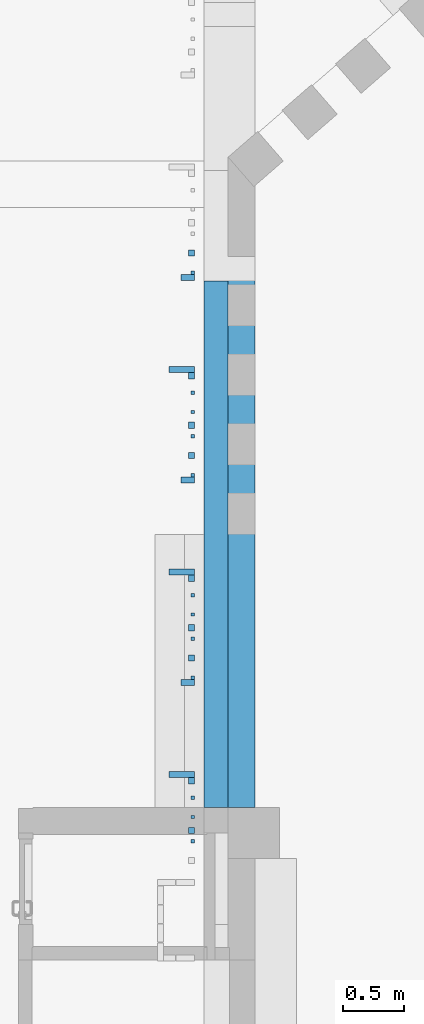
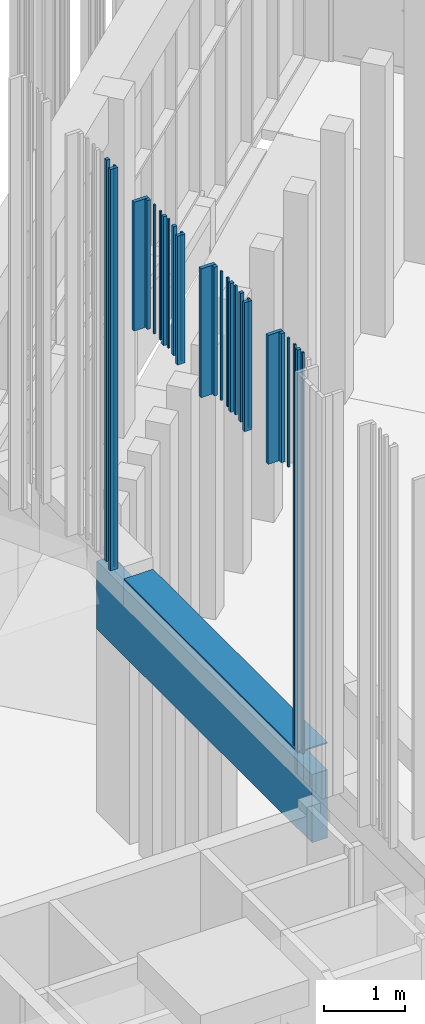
# One storey, part 129 of 390: 29 walls.
"""IFC2X3 building model written with IfcOpenShell, lengths in millimetres."""

from ifc_helpers import new_model, entity, si_unit, converted_unit, derived_unit, money_unit, direction, frame, origin_with_axes, place, context, subcontext, project, spatial, faceted_brep, material, material_list, type_object, element, save


model = new_model("IFC2X3")

# Units and contexts
model_context = context("Model", 3, precision=1e-05, world=origin_with_axes(), true_north=direction((0.0, 1.0)))
body_context = subcontext(model_context, "Body", "Model", "MODEL_VIEW")
ifc_project = project(units=[si_unit("LENGTHUNIT", "METRE", prefix="MILLI"), si_unit("AREAUNIT", "SQUARE_METRE"), si_unit("VOLUMEUNIT", "CUBIC_METRE"), converted_unit("PLANEANGLEUNIT", "DEGREE", entity("IfcPlaneAngleMeasure", 0.0174532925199), si_unit("PLANEANGLEUNIT", "RADIAN"), dimensions=[0, 0, 0, 0, 0, 0, 0]), si_unit("SOLIDANGLEUNIT", "STERADIAN"), money_unit("EUR"), converted_unit("TIMEUNIT", "Year", entity("IfcTimeMeasure", 31556926.0), si_unit("TIMEUNIT", "SECOND"), dimensions=[0, 0, 1, 0, 0, 0, 0]), si_unit("MASSUNIT", "GRAM", prefix="KILO"), si_unit("THERMODYNAMICTEMPERATUREUNIT", "DEGREE_CELSIUS"), si_unit("LUMINOUSINTENSITYUNIT", "LUMEN"), si_unit("ENERGYUNIT", "JOULE", prefix="MEGA"), derived_unit("THERMALCONDUCTANCEUNIT", [(si_unit("POWERUNIT", "WATT"), 1), (si_unit("LENGTHUNIT", "METRE"), -1), (si_unit("THERMODYNAMICTEMPERATUREUNIT", "KELVIN"), -1)]), derived_unit("SPECIFICHEATCAPACITYUNIT", [(si_unit("ENERGYUNIT", "JOULE"), 1), (si_unit("MASSUNIT", "GRAM", prefix="KILO"), -1), (si_unit("THERMODYNAMICTEMPERATUREUNIT", "KELVIN"), -1)]), derived_unit("MASSDENSITYUNIT", [(si_unit("MASSUNIT", "GRAM", prefix="KILO"), 1), (si_unit("VOLUMEUNIT", "CUBIC_METRE"), -1)])], contexts=[model_context])

# Site, building, storey
site_placement = place(None, origin_with_axes())
site = spatial("IfcSite", under=ifc_project, at=site_placement, Name="Site", CompositionType="ELEMENT")
building_placement = place(site_placement, origin_with_axes())
building = spatial("IfcBuilding", under=site, at=building_placement, Name="Building", CompositionType="ELEMENT")
storey_placement = place(building_placement, origin_with_axes())
storey = spatial("IfcBuildingStorey", under=building, at=storey_placement, Name="1 korrus", CompositionType="ELEMENT", Elevation=0.0)

# Walls
ifc_material_1 = material(Name="Krohv - Lubjakivi")
ifc_material_2 = material(Name="Raudbetoon - Konstruktsioon")
ifc_material_list_1 = material_list([ifc_material_1, ifc_material_2, ifc_material_1, ifc_material_1])
wall_type_1 = type_object("IfcWallType", Name="SS-10", PredefinedType="NOTDEFINED")
wall_1_placement = place(storey_placement, frame((122909.999995, 67509.999998, 2170.23676118), z_axis=(0.0, 0.0, 1.0), x_axis=(0.0, 1.0, 0.0)))
element("IfcWall", 1, at=wall_1_placement, inside=storey, type_object=wall_type_1, material=ifc_material_list_1, Name="SS-10", context=body_context, shape_type="Brep", body=[
    faceted_brep([(5322.51426436, 210.000000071, 0.0), (5322.51426436, 210.000000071, 1030.0), (-2.81374923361e-09, 210.0, 1030.0), (-2.81374923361e-09, 210.0, 0.0), (5334.01794422, 219.999996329, 1030.0), (5334.01794422, 219.999996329, 0.0), (-2.95585778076e-09, 220.0, 1030.0), (-2.95585778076e-09, 220.0, 0.0)], [[[0, 1, 2, 3]], [[4, 1, 0, 5]], [[1, 4, 6, 2]], [[6, 7, 3, 2]], [[5, 0, 3, 7]], [[4, 5, 7, 6]]]),
    faceted_brep([(5334.01794422, 210.000000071, 0.0), (5334.01794422, 10.0000000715, 0.0), (-1.42108547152e-10, 10.0, 0.0), (-2.81374923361e-09, 210.0, 0.0), (5334.01794422, 210.000000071, 1030.0), (5334.01794422, 10.0000000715, 1030.0), (-1.42108547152e-10, 10.0, 1030.0), (-2.81374923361e-09, 210.0, 1030.0)], [[[0, 1, 2, 3]], [[0, 4, 5, 1]], [[1, 5, 6, 2]], [[3, 2, 6, 7]], [[4, 0, 3, 7]], [[5, 4, 7, 6]]]),
    faceted_brep([(5101.25686535, 6.83400003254e-08, 0.0), (5101.25686535, 6.83400003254e-08, 1030.0), (0.0, 0.0, 1030.0), (0.0, 0.0, 0.0), (5092.56399804, 10.0000000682, 1030.0), (5092.56399804, 10.0000000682, 0.0), (-1.42108547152e-10, 10.0, 1030.0), (-1.42108547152e-10, 10.0, 0.0)], [[[0, 1, 2, 3]], [[4, 1, 0, 5]], [[1, 4, 6, 2]], [[6, 7, 3, 2]], [[5, 0, 3, 7]], [[4, 5, 7, 6]]]),
    faceted_brep([(5107.68311205, 10.0000000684, 1030.0), (5106.61856382, 9.07460242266, 1030.0), (5114.50699524, 6.85247414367e-08, 1030.0), (5334.01794422, 7.14663883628e-08, 1030.0), (5334.01794422, 10.0000000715, 1030.0), (5107.68311205, 10.0000000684, 0.0), (5106.61856382, 9.07460242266, 0.0), (5114.50699524, 6.85247414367e-08, 0.0), (5334.01794422, 7.14663883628e-08, 0.0), (5334.01794422, 10.0000000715, 0.0)], [[[0, 1, 2, 3, 4]], [[1, 0, 5, 6]], [[7, 2, 1, 6]], [[2, 7, 8, 3]], [[8, 9, 4, 3]], [[5, 0, 4, 9]], [[6, 5, 9, 8, 7]]]),
])
ifc_material_3 = material(Name="Site specified")
wall_type_2 = type_object("IfcWallType", Name="Puitfassaadi ribistik", PredefinedType="NOTDEFINED")
wall_2_placement = place(storey_placement, frame((122358.499994, 71856.9918312, 3795.0), z_axis=(0.0, 0.0, 1.0), x_axis=(0.0, 1.0, 0.0)))
element("IfcWall", 2, at=wall_2_placement, inside=storey, type_object=wall_type_2, material=ifc_material_3, Name="Site specified", context=body_context, shape_type="Brep", body=[
    faceted_brep([(25.0, 54.5, 6070.0), (25.0, 54.5, 0.0), (-25.0, 54.5, 0.0), (-25.0, 54.5, 6070.0), (25.0, -54.5, 6070.0), (25.0, -54.5, 0.0), (-25.0, -54.5, 0.0), (-25.0, -54.5, 6070.0)], [[[0, 1, 2, 3]], [[4, 5, 1, 0]], [[2, 1, 5, 6]], [[3, 2, 6, 7]], [[4, 0, 3, 7]], [[7, 6, 5, 4]]]),
])
wall_3_placement = place(storey_placement, frame((122398.999994, 71895.9918312, 3795.0), z_axis=(0.0, 0.0, 1.0), x_axis=(0.0, 1.0, 0.0)))
element("IfcWall", 3, at=wall_3_placement, inside=storey, type_object=wall_type_2, material=ifc_material_3, Name="Site specified", context=body_context, shape_type="Brep", body=[
    faceted_brep([(14.0, 14.0, 6070.0), (14.0, 14.0, 0.0), (-14.0, 14.0, 0.0), (-14.0, 14.0, 6070.0), (14.0, -14.0, 6070.0), (14.0, -14.0, 0.0), (-14.0, -14.0, 0.0), (-14.0, -14.0, 6070.0)], [[[0, 1, 2, 3]], [[4, 5, 1, 0]], [[2, 1, 5, 6]], [[3, 2, 6, 7]], [[4, 0, 3, 7]], [[7, 6, 5, 4]]]),
])
wall_4_placement = place(storey_placement, frame((122387.999963, 70644.99183, 7915.0), z_axis=(0.0, 0.0, 1.0), x_axis=(0.0, 1.0, 0.0)))
element("IfcWall", 4, at=wall_4_placement, inside=storey, type_object=wall_type_2, material=ifc_material_3, Name="Site specified", context=body_context, shape_type="Brep", body=[
    faceted_brep([(25.0, 25.0, 1950.0), (25.0, 25.0, 0.0), (-25.0, 25.0, 0.0), (-25.0, 25.0, 1950.0), (25.0, -25.0, 1950.0), (25.0, -25.0, 0.0), (-25.0, -25.0, 0.0), (-25.0, -25.0, 1950.0)], [[[0, 1, 2, 3]], [[4, 5, 1, 0]], [[2, 1, 5, 6]], [[3, 2, 6, 7]], [[4, 0, 3, 7]], [[7, 6, 5, 4]]]),
])
wall_5_placement = place(storey_placement, frame((122398.999963, 70555.99183, 7915.0), z_axis=(0.0, 0.0, 1.0), x_axis=(0.0, 1.0, 0.0)))
element("IfcWall", 5, at=wall_5_placement, inside=storey, type_object=wall_type_2, material=ifc_material_3, Name="Site specified", context=body_context, shape_type="Brep", body=[
    faceted_brep([(14.0, 14.0, 1950.0), (14.0, 14.0, 0.0), (-14.0, 14.0, 0.0), (-14.0, 14.0, 1950.0), (14.0, -14.0, 1950.0), (14.0, -14.0, 0.0), (-14.0, -14.0, 0.0), (-14.0, -14.0, 1950.0)], [[[0, 1, 2, 3]], [[4, 5, 1, 0]], [[2, 1, 5, 6]], [[3, 2, 6, 7]], [[4, 0, 3, 7]], [[7, 6, 5, 4]]]),
])
for number, where, z_axis, x_axis, name in (
    (6, (122387.999963, 70396.99183, 7915.0), (0.0, 0.0, 1.0), (0.0, 1.0, 0.0), "Site specified"),
    (7, (122387.999963, 69389.9836511, 7915.0), (0.0, 0.0, 1.0), (0.0, 1.0, 0.0), "Site specified"),
):
    element("IfcWall", number, at=place(storey_placement, frame(where, z_axis=z_axis, x_axis=x_axis)), inside=storey, type_object=wall_type_2, material=ifc_material_3, Name=name, context=body_context, shape_type="Brep", body=[
        faceted_brep([(25.0, 25.0, 1950.0), (25.0, 25.0, 0.0), (-25.0, 25.0, 0.0), (-25.0, 25.0, 1950.0), (25.0, -25.0, 1950.0), (25.0, -25.0, 0.0), (-25.0, -25.0, 0.0), (-25.0, -25.0, 1950.0)], [[[0, 1, 2, 3]], [[4, 5, 1, 0]], [[2, 1, 5, 6]], [[3, 2, 6, 7]], [[4, 0, 3, 7]], [[7, 6, 5, 4]]]),
    ])
wall_6_placement = place(storey_placement, frame((122308.499963, 69439.9836511, 7915.0), z_axis=(0.0, 0.0, 1.0), x_axis=(0.0, 1.0, 0.0)))
element("IfcWall", 8, at=wall_6_placement, inside=storey, type_object=wall_type_2, material=ifc_material_3, Name="Site specified", context=body_context, shape_type="Brep", body=[
    faceted_brep([(25.0, 104.5, 1950.0), (25.0, 104.5, 0.0), (-25.0, 104.5, 0.0), (-25.0, 104.5, 1950.0), (25.0, -104.5, 1950.0), (25.0, -104.5, 0.0), (-25.0, -104.5, 0.0), (-25.0, -104.5, 1950.0)], [[[0, 1, 2, 3]], [[4, 5, 1, 0]], [[2, 1, 5, 6]], [[3, 2, 6, 7]], [[4, 0, 3, 7]], [[7, 6, 5, 4]]]),
])
wall_7_placement = place(storey_placement, frame((122398.999963, 70911.99183, 7915.0), z_axis=(0.0, 0.0, 1.0), x_axis=(0.0, 1.0, 0.0)))
element("IfcWall", 9, at=wall_7_placement, inside=storey, type_object=wall_type_2, material=ifc_material_3, Name="Site specified", context=body_context, shape_type="Brep", body=[
    faceted_brep([(14.0, 14.0, 1950.0), (14.0, 14.0, 0.0), (-14.0, 14.0, 0.0), (-14.0, 14.0, 1950.0), (14.0, -14.0, 1950.0), (14.0, -14.0, 0.0), (-14.0, -14.0, 0.0), (-14.0, -14.0, 1950.0)], [[[0, 1, 2, 3]], [[4, 5, 1, 0]], [[2, 1, 5, 6]], [[3, 2, 6, 7]], [[4, 0, 3, 7]], [[7, 6, 5, 4]]]),
])
wall_8_placement = place(storey_placement, frame((122358.499963, 68534.9754723, 7915.0), z_axis=(0.0, 0.0, 1.0), x_axis=(0.0, 1.0, 0.0)))
element("IfcWall", 10, at=wall_8_placement, inside=storey, type_object=wall_type_2, material=ifc_material_3, Name="Site specified", context=body_context, shape_type="Brep", body=[
    faceted_brep([(25.0, 54.5, 1950.0), (25.0, 54.5, 0.0), (-25.0, 54.5, 0.0), (-25.0, 54.5, 1950.0), (25.0, -54.5, 1950.0), (25.0, -54.5, 0.0), (-25.0, -54.5, 0.0), (-25.0, -54.5, 1950.0)], [[[0, 1, 2, 3]], [[4, 5, 1, 0]], [[2, 1, 5, 6]], [[3, 2, 6, 7]], [[4, 0, 3, 7]], [[7, 6, 5, 4]]]),
])
wall_9_placement = place(storey_placement, frame((122398.999963, 68573.9754723, 7915.0), z_axis=(0.0, 0.0, 1.0), x_axis=(0.0, 1.0, 0.0)))
element("IfcWall", 11, at=wall_9_placement, inside=storey, type_object=wall_type_2, material=ifc_material_3, Name="Site specified", context=body_context, shape_type="Brep", body=[
    faceted_brep([(14.0, 14.0, 1950.0), (14.0, 14.0, 0.0), (-14.0, 14.0, 0.0), (-14.0, 14.0, 1950.0), (14.0, -14.0, 1950.0), (14.0, -14.0, 0.0), (-14.0, -14.0, 0.0), (-14.0, -14.0, 1950.0)], [[[0, 1, 2, 3]], [[4, 5, 1, 0]], [[2, 1, 5, 6]], [[3, 2, 6, 7]], [[4, 0, 3, 7]], [[7, 6, 5, 4]]]),
])
wall_10_placement = place(storey_placement, frame((122387.999963, 68983.9836511, 7915.0), z_axis=(0.0, 0.0, 1.0), x_axis=(0.0, 1.0, 0.0)))
element("IfcWall", 12, at=wall_10_placement, inside=storey, type_object=wall_type_2, material=ifc_material_3, Name="Site specified", context=body_context, shape_type="Brep", body=[
    faceted_brep([(25.0, 25.0, 1950.0), (25.0, 25.0, 0.0), (-25.0, 25.0, 0.0), (-25.0, 25.0, 1950.0), (25.0, -25.0, 1950.0), (25.0, -25.0, 0.0), (-25.0, -25.0, 0.0), (-25.0, -25.0, 1950.0)], [[[0, 1, 2, 3]], [[4, 5, 1, 0]], [[2, 1, 5, 6]], [[3, 2, 6, 7]], [[4, 0, 3, 7]], [[7, 6, 5, 4]]]),
])
for number, where, z_axis, x_axis, name in (
    (13, (122398.999963, 69092.9836511, 7915.0), (0.0, 0.0, 1.0), (0.0, 1.0, 0.0), "Site specified"),
    (14, (122398.999963, 69250.9836511, 7915.0), (0.0, 0.0, 1.0), (0.0, 1.0, 0.0), "Site specified"),
    (15, (122398.999963, 70753.99183, 7915.0), (0.0, 0.0, 1.0), (0.0, 1.0, 0.0), "Site specified"),
):
    element("IfcWall", number, at=place(storey_placement, frame(where, z_axis=z_axis, x_axis=x_axis)), inside=storey, type_object=wall_type_2, material=ifc_material_3, Name=name, context=body_context, shape_type="Brep", body=[
        faceted_brep([(14.0, 14.0, 1950.0), (14.0, 14.0, 0.0), (-14.0, 14.0, 0.0), (-14.0, 14.0, 1950.0), (14.0, -14.0, 1950.0), (14.0, -14.0, 0.0), (-14.0, -14.0, 0.0), (-14.0, -14.0, 1950.0)], [[[0, 1, 2, 3]], [[4, 5, 1, 0]], [[2, 1, 5, 6]], [[3, 2, 6, 7]], [[4, 0, 3, 7]], [[7, 6, 5, 4]]]),
    ])
wall_11_placement = place(storey_placement, frame((122387.999963, 71050.99183, 7915.0), z_axis=(0.0, 0.0, 1.0), x_axis=(0.0, 1.0, 0.0)))
element("IfcWall", 16, at=wall_11_placement, inside=storey, type_object=wall_type_2, material=ifc_material_3, Name="Site specified", context=body_context, shape_type="Brep", body=[
    faceted_brep([(25.0, 25.0, 1950.0), (25.0, 25.0, 0.0), (-25.0, 25.0, 0.0), (-25.0, 25.0, 1950.0), (25.0, -25.0, 1950.0), (25.0, -25.0, 0.0), (-25.0, -25.0, 0.0), (-25.0, -25.0, 1950.0)], [[[0, 1, 2, 3]], [[4, 5, 1, 0]], [[2, 1, 5, 6]], [[3, 2, 6, 7]], [[4, 0, 3, 7]], [[7, 6, 5, 4]]]),
])
wall_12_placement = place(storey_placement, frame((122308.499963, 71100.99183, 7915.0), z_axis=(0.0, 0.0, 1.0), x_axis=(0.0, 1.0, 0.0)))
element("IfcWall", 17, at=wall_12_placement, inside=storey, type_object=wall_type_2, material=ifc_material_3, Name="Site specified", context=body_context, shape_type="Brep", body=[
    faceted_brep([(25.0, 104.5, 1950.0), (25.0, 104.5, 0.0), (-25.0, 104.5, 0.0), (-25.0, 104.5, 1950.0), (25.0, -104.5, 1950.0), (25.0, -104.5, 0.0), (-25.0, -104.5, 0.0), (-25.0, -104.5, 1950.0)], [[[0, 1, 2, 3]], [[4, 5, 1, 0]], [[2, 1, 5, 6]], [[3, 2, 6, 7]], [[4, 0, 3, 7]], [[7, 6, 5, 4]]]),
])
wall_13_placement = place(storey_placement, frame((122398.999963, 70234.9836511, 7915.0), z_axis=(0.0, 0.0, 1.0), x_axis=(0.0, 1.0, 0.0)))
element("IfcWall", 18, at=wall_13_placement, inside=storey, type_object=wall_type_2, material=ifc_material_3, Name="Site specified", context=body_context, shape_type="Brep", body=[
    faceted_brep([(14.0, 14.0, 1950.0), (14.0, 14.0, 0.0), (-14.0, 14.0, 0.0), (-14.0, 14.0, 1950.0), (14.0, -14.0, 1950.0), (14.0, -14.0, 0.0), (-14.0, -14.0, 0.0), (-14.0, -14.0, 1950.0)], [[[0, 1, 2, 3]], [[4, 5, 1, 0]], [[2, 1, 5, 6]], [[3, 2, 6, 7]], [[4, 0, 3, 7]], [[7, 6, 5, 4]]]),
])
wall_14_placement = place(storey_placement, frame((122358.499963, 70195.9836511, 7915.0), z_axis=(0.0, 0.0, 1.0), x_axis=(0.0, 1.0, 0.0)))
element("IfcWall", 19, at=wall_14_placement, inside=storey, type_object=wall_type_2, material=ifc_material_3, Name="Site specified", context=body_context, shape_type="Brep", body=[
    faceted_brep([(25.0, 54.5, 1950.0), (25.0, 54.5, 0.0), (-25.0, 54.5, 0.0), (-25.0, 54.5, 1950.0), (25.0, -54.5, 1950.0), (25.0, -54.5, 0.0), (-25.0, -54.5, 0.0), (-25.0, -54.5, 1950.0)], [[[0, 1, 2, 3]], [[4, 5, 1, 0]], [[2, 1, 5, 6]], [[3, 2, 6, 7]], [[4, 0, 3, 7]], [[7, 6, 5, 4]]]),
])
wall_15_placement = place(storey_placement, frame((122387.999994, 72058.0000101, 3795.0), z_axis=(0.0, 0.0, 1.0), x_axis=(0.0, 1.0, 0.0)))
element("IfcWall", 20, at=wall_15_placement, inside=storey, type_object=wall_type_2, material=ifc_material_3, Name="Site specified", context=body_context, shape_type="Brep", body=[
    faceted_brep([(25.0, 25.0, 6070.0), (25.0, 25.0, 0.0), (-25.0, 25.0, 0.0), (-25.0, 25.0, 6070.0), (25.0, -25.0, 6070.0), (25.0, -25.0, 0.0), (-25.0, -25.0, 0.0), (-25.0, -25.0, 6070.0)], [[[0, 1, 2, 3]], [[4, 5, 1, 0]], [[2, 1, 5, 6]], [[3, 2, 6, 7]], [[4, 0, 3, 7]], [[7, 6, 5, 4]]]),
])
wall_16_placement = place(storey_placement, frame((122398.999995, 67589.9754734, 7915.0), z_axis=(0.0, 0.0, 1.0), x_axis=(0.0, 1.0, 0.0)))
element("IfcWall", 21, at=wall_16_placement, inside=storey, type_object=wall_type_2, material=ifc_material_3, Name="Site specified", context=body_context, shape_type="Brep", body=[
    faceted_brep([(14.0, 14.0, 1950.0), (14.0, 14.0, 0.0), (-14.0, 14.0, 0.0), (-14.0, 14.0, 1950.0), (14.0, -14.0, 1950.0), (14.0, -14.0, 0.0), (-14.0, -14.0, 0.0), (-14.0, -14.0, 1950.0)], [[[0, 1, 2, 3]], [[4, 5, 1, 0]], [[2, 1, 5, 6]], [[3, 2, 6, 7]], [[4, 0, 3, 7]], [[7, 6, 5, 4]]]),
])
wall_17_placement = place(storey_placement, frame((122387.999995, 67322.9754734, 3795.0), z_axis=(0.0, 0.0, 1.0), x_axis=(0.0, 1.0, 0.0)))
element("IfcWall", 22, at=wall_17_placement, inside=storey, type_object=wall_type_2, material=ifc_material_3, Name="Site specified", context=body_context, shape_type="Brep", body=[
    faceted_brep([(25.0, 25.0, 6070.0), (25.0, 25.0, 0.0), (-25.0, 25.0, 0.0), (-25.0, 25.0, 6070.0), (25.0, -25.0, 6070.0), (25.0, -25.0, 0.0), (-25.0, -25.0, 0.0), (-25.0, -25.0, 6070.0)], [[[0, 1, 2, 3]], [[4, 5, 1, 0]], [[2, 1, 5, 6]], [[3, 2, 6, 7]], [[4, 0, 3, 7]], [[7, 6, 5, 4]]]),
])
wall_18_placement = place(storey_placement, frame((122398.999995, 67431.9754734, 3795.0), z_axis=(0.0, 0.0, 1.0), x_axis=(0.0, 1.0, 0.0)))
element("IfcWall", 23, at=wall_18_placement, inside=storey, type_object=wall_type_2, material=ifc_material_3, Name="Site specified", context=body_context, shape_type="Brep", body=[
    faceted_brep([(14.0, 14.0, 6070.0), (14.0, 14.0, 0.0), (-14.0, 14.0, 0.0), (-14.0, 14.0, 6070.0), (14.0, -14.0, 6070.0), (14.0, -14.0, 0.0), (-14.0, -14.0, 0.0), (-14.0, -14.0, 6070.0)], [[[0, 1, 2, 3]], [[4, 5, 1, 0]], [[2, 1, 5, 6]], [[3, 2, 6, 7]], [[4, 0, 3, 7]], [[7, 6, 5, 4]]]),
])
wall_19_placement = place(storey_placement, frame((122387.999995, 67728.9754734, 7915.0), z_axis=(0.0, 0.0, 1.0), x_axis=(0.0, 1.0, 0.0)))
element("IfcWall", 24, at=wall_19_placement, inside=storey, type_object=wall_type_2, material=ifc_material_3, Name="Site specified", context=body_context, shape_type="Brep", body=[
    faceted_brep([(25.0, 25.0, 1950.0), (25.0, 25.0, 0.0), (-25.0, 25.0, 0.0), (-25.0, 25.0, 1950.0), (25.0, -25.0, 1950.0), (25.0, -25.0, 0.0), (-25.0, -25.0, 0.0), (-25.0, -25.0, 1950.0)], [[[0, 1, 2, 3]], [[4, 5, 1, 0]], [[2, 1, 5, 6]], [[3, 2, 6, 7]], [[4, 0, 3, 7]], [[7, 6, 5, 4]]]),
])
wall_20_placement = place(storey_placement, frame((122398.999995, 67233.9754734, 3795.0), z_axis=(0.0, 0.0, 1.0), x_axis=(0.0, 1.0, 0.0)))
element("IfcWall", 25, at=wall_20_placement, inside=storey, type_object=wall_type_2, material=ifc_material_3, Name="Site specified", context=body_context, shape_type="Brep", body=[
    faceted_brep([(14.0, 14.0, 6070.0), (14.0, 14.0, 0.0), (-14.0, 14.0, 0.0), (-14.0, 14.0, 6070.0), (14.0, -14.0, 6070.0), (14.0, -14.0, 0.0), (-14.0, -14.0, 0.0), (-14.0, -14.0, 6070.0)], [[[0, 1, 2, 3]], [[4, 5, 1, 0]], [[2, 1, 5, 6]], [[3, 2, 6, 7]], [[4, 0, 3, 7]], [[7, 6, 5, 4]]]),
])
wall_21_placement = place(storey_placement, frame((122387.999963, 68735.9836511, 7915.0), z_axis=(0.0, 0.0, 1.0), x_axis=(0.0, 1.0, 0.0)))
element("IfcWall", 26, at=wall_21_placement, inside=storey, type_object=wall_type_2, material=ifc_material_3, Name="Site specified", context=body_context, shape_type="Brep", body=[
    faceted_brep([(25.0, 25.0, 1950.0), (25.0, 25.0, 0.0), (-25.0, 25.0, 0.0), (-25.0, 25.0, 1950.0), (25.0, -25.0, 1950.0), (25.0, -25.0, 0.0), (-25.0, -25.0, 0.0), (-25.0, -25.0, 1950.0)], [[[0, 1, 2, 3]], [[4, 5, 1, 0]], [[2, 1, 5, 6]], [[3, 2, 6, 7]], [[4, 0, 3, 7]], [[7, 6, 5, 4]]]),
])
wall_22_placement = place(storey_placement, frame((122398.999963, 68894.9836511, 7915.0), z_axis=(0.0, 0.0, 1.0), x_axis=(0.0, 1.0, 0.0)))
element("IfcWall", 27, at=wall_22_placement, inside=storey, type_object=wall_type_2, material=ifc_material_3, Name="Site specified", context=body_context, shape_type="Brep", body=[
    faceted_brep([(14.0, 14.0, 1950.0), (14.0, 14.0, 0.0), (-14.0, 14.0, 0.0), (-14.0, 14.0, 1950.0), (14.0, -14.0, 1950.0), (14.0, -14.0, 0.0), (-14.0, -14.0, 0.0), (-14.0, -14.0, 1950.0)], [[[0, 1, 2, 3]], [[4, 5, 1, 0]], [[2, 1, 5, 6]], [[3, 2, 6, 7]], [[4, 0, 3, 7]], [[7, 6, 5, 4]]]),
])
wall_23_placement = place(storey_placement, frame((122308.499995, 67778.9754734, 7915.0), z_axis=(0.0, 0.0, 1.0), x_axis=(0.0, 1.0, 0.0)))
element("IfcWall", 28, at=wall_23_placement, inside=storey, type_object=wall_type_2, material=ifc_material_3, Name="Site specified", context=body_context, shape_type="Brep", body=[
    faceted_brep([(25.0, 104.5, 1950.0), (25.0, 104.5, 0.0), (-25.0, 104.5, 0.0), (-25.0, 104.5, 1950.0), (25.0, -104.5, 1950.0), (25.0, -104.5, 0.0), (-25.0, -104.5, 0.0), (-25.0, -104.5, 1950.0)], [[[0, 1, 2, 3]], [[4, 5, 1, 0]], [[2, 1, 5, 6]], [[3, 2, 6, 7]], [[4, 0, 3, 7]], [[7, 6, 5, 4]]]),
])
ifc_material_4 = material(Name="Plaat - Sein")
ifc_material_5 = material(Name="Soojustus - Plastik Kõva")
ifc_material_list_2 = material_list([ifc_material_4, ifc_material_5, ifc_material_5, ifc_material_2, ifc_material_1])
wall_type_3 = type_object("IfcWallType", Name="VS-05", PredefinedType="NOTDEFINED")
wall_24_placement = place(storey_placement, frame((122909.999995, 67509.999998, 3595.0), z_axis=(0.0, 0.0, 1.0), x_axis=(0.0, 1.0, 0.0)))
element("IfcWall", 29, at=wall_24_placement, inside=storey, type_object=wall_type_3, material=ifc_material_list_2, Name="VS-05", context=body_context, shape_type="Brep", body=[
    faceted_brep([(4318.9918332, 418.000000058, 0.0), (4318.9918332, 410.000000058, 0.0), (-5.49960077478e-09, 410.0, 0.0), (-5.6132876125e-09, 418.0, 0.0), (4318.9918332, 418.000000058, 20.0), (4318.9918332, 410.000000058, 20.0), (-5.49960077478e-09, 410.0, 20.0), (-5.6132876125e-09, 418.0, 20.0)], [[[0, 1, 2, 3]], [[0, 4, 5, 1]], [[1, 5, 6, 2]], [[3, 2, 6, 7]], [[4, 0, 3, 7]], [[5, 4, 7, 6]]]),
    faceted_brep([(4318.9918332, 410.000000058, 0.0), (4318.9918332, 360.000000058, 0.0), (-4.83169060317e-09, 360.0, 0.0), (-5.49960077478e-09, 410.0, 0.0), (4318.9918332, 410.000000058, 20.0), (4318.9918332, 360.000000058, 20.0), (-4.83169060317e-09, 360.0, 20.0), (-5.49960077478e-09, 410.0, 20.0)], [[[0, 1, 2, 3]], [[0, 4, 5, 1]], [[1, 5, 6, 2]], [[3, 2, 6, 7]], [[4, 0, 3, 7]], [[5, 4, 7, 6]]]),
    faceted_brep([(4318.9918332, 360.000000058, 0.0), (4318.99183321, 210.000000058, 0.0), (-2.81374923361e-09, 210.0, 0.0), (-4.83169060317e-09, 360.0, 0.0), (4318.9918332, 360.000000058, 20.0), (4318.99183321, 210.000000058, 20.0), (-2.81374923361e-09, 210.0, 20.0), (-4.83169060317e-09, 360.0, 20.0)], [[[0, 1, 2, 3]], [[0, 4, 5, 1]], [[1, 5, 6, 2]], [[3, 2, 6, 7]], [[4, 0, 3, 7]], [[5, 4, 7, 6]]]),
    faceted_brep([(4318.99183321, 210.000000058, 0.0), (4318.99183321, 10.0000000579, 0.0), (-1.42108547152e-10, 10.0, 0.0), (-2.81374923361e-09, 210.0, 0.0), (4318.99183321, 210.000000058, 20.0), (4318.99183321, 10.0000000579, 20.0), (-1.42108547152e-10, 10.0, 20.0), (-2.81374923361e-09, 210.0, 20.0)], [[[0, 1, 2, 3]], [[0, 4, 5, 1]], [[1, 5, 6, 2]], [[3, 2, 6, 7]], [[4, 0, 3, 7]], [[5, 4, 7, 6]]]),
    faceted_brep([(4318.99183321, 10.0000000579, 0.0), (4318.99183321, 5.7880811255e-08, 0.0), (0.0, 0.0, 0.0), (-1.42108547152e-10, 10.0, 0.0), (4318.99183321, 10.0000000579, 20.0), (4318.99183321, 5.7880811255e-08, 20.0), (0.0, 0.0, 20.0), (-1.42108547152e-10, 10.0, 20.0)], [[[0, 1, 2, 3]], [[0, 4, 5, 1]], [[1, 5, 6, 2]], [[3, 2, 6, 7]], [[4, 0, 3, 7]], [[5, 4, 7, 6]]]),
])

save(model, "model.ifc")
